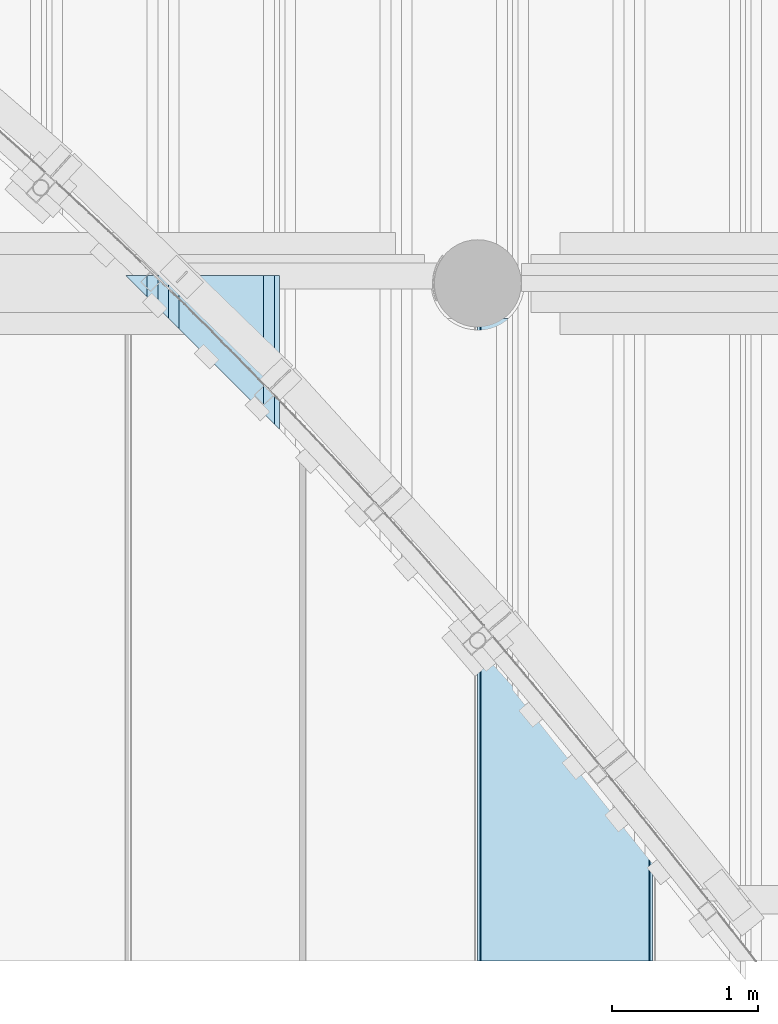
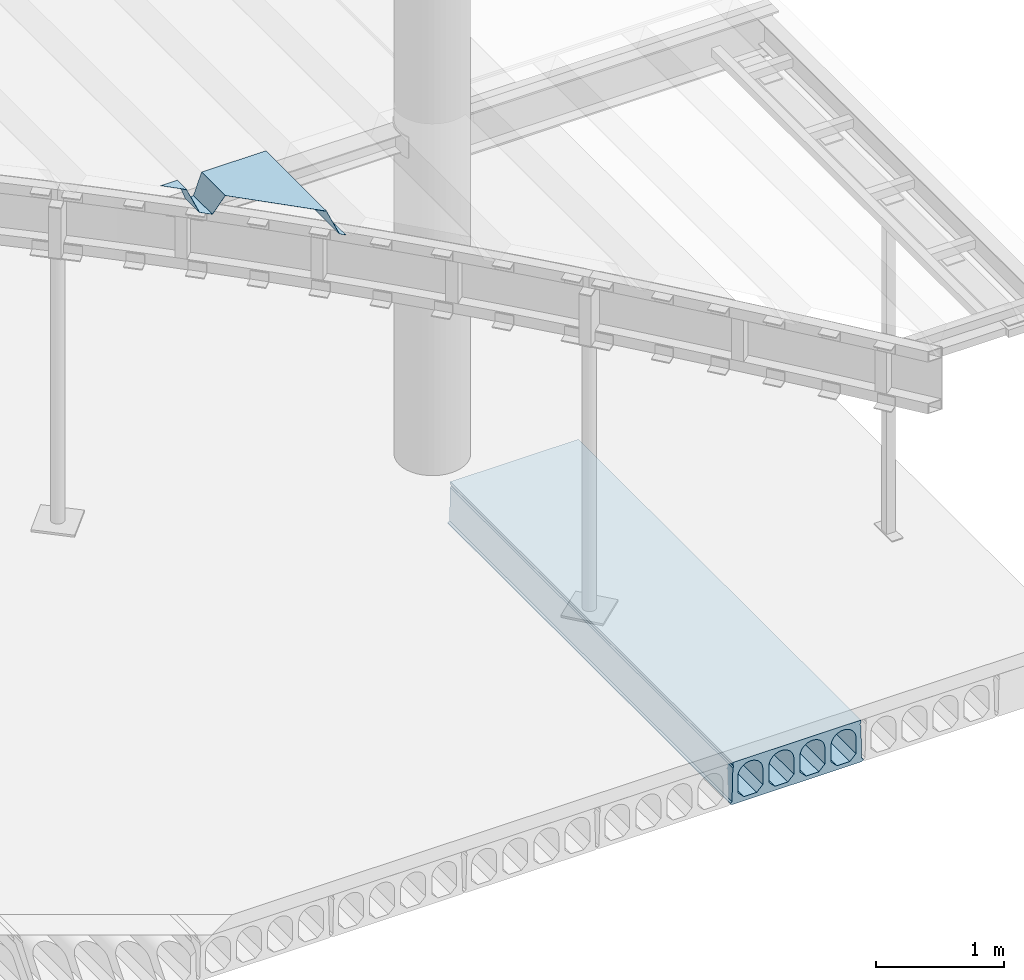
# One storey, part 51 of 98: 2 slabs.
"""IFC2X3 building model written with IfcOpenShell, lengths in millimetres."""

from ifc_helpers import new_model, entity, si_unit, converted_unit, derived_unit, direction, frame, origin_with_axes, place, context, subcontext, project, spatial, faceted_brep, material, type_object, element, save


model = new_model("IFC2X3")

# Units and contexts
model_context = context("Model", 3, precision=0.01, world=frame((0.0, 4.29681676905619e-09, 0.0)), true_north=direction((4.01073788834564e-13, 1.0)))
plan_context = context("Plan", 3, precision=0.01, world=frame((0.0, 4.29681676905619e-09, 0.0)), true_north=direction((4.01073788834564e-13, 1.0)))
body_context = subcontext(model_context, "Body", "Model", "MODEL_VIEW")
ifc_project = project(units=[converted_unit("PLANEANGLEUNIT", "DEGREE", entity("IfcPositiveLengthMeasure", 0.0174532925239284), si_unit("PLANEANGLEUNIT", "RADIAN"), dimensions=[0, 0, 0, 0, 0, 0, 0]), si_unit("AREAUNIT", "SQUARE_METRE"), si_unit("LENGTHUNIT", "METRE", prefix="MILLI"), si_unit("MASSUNIT", "GRAM", prefix="KILO"), si_unit("POWERUNIT", "WATT"), si_unit("PRESSUREUNIT", "PASCAL"), si_unit("FORCEUNIT", "NEWTON", prefix="KILO"), si_unit("ELECTRICCURRENTUNIT", "AMPERE"), si_unit("THERMODYNAMICTEMPERATUREUNIT", "DEGREE_CELSIUS"), si_unit("TIMEUNIT", "SECOND"), si_unit("VOLUMEUNIT", "CUBIC_METRE"), derived_unit("LINEARVELOCITYUNIT", [(si_unit("LENGTHUNIT", "METRE"), 1), (si_unit("TIMEUNIT", "SECOND"), -1)]), derived_unit("VOLUMETRICFLOWRATEUNIT", [(si_unit("VOLUMEUNIT", "CUBIC_METRE"), 1), (si_unit("TIMEUNIT", "SECOND"), -1)]), derived_unit("THERMALTRANSMITTANCEUNIT", [(si_unit("POWERUNIT", "WATT"), 1), (si_unit("THERMODYNAMICTEMPERATUREUNIT", "KELVIN"), -1), (si_unit("AREAUNIT", "SQUARE_METRE"), -1)])], contexts=[model_context, plan_context])

# Site, building, storey
site_placement = place(None, frame((0.0, -4.29681676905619e-09, 0.0), z_axis=(0.0, 0.0, 1.0), x_axis=(1.0, 0.0, 0.0)))
site = spatial("IfcSite", under=ifc_project, at=site_placement, Name="Gardermoen", CompositionType="ELEMENT")
building_placement = place(site_placement, frame((0.0, 4.29681676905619e-09, 0.0), z_axis=(0.0, 0.0, 1.0), x_axis=(1.0, 0.0, 0.0)))
building = spatial("IfcBuilding", under=site, at=building_placement, Name="TS", CompositionType="ELEMENT")
storey_placement = place(building_placement, origin_with_axes())
storey = spatial("IfcBuildingStorey", under=building, at=storey_placement, Name="D", CompositionType="ELEMENT", Elevation=0.0)

# Slabs
slab_type_1 = type_object("IfcSlabType", Name="HD400", PredefinedType="NOTDEFINED")
slab_1_placement = place(storey_placement, frame((529599.999766, 396739.995625, 203600.0), z_axis=(0.0, 0.0, 1.0), x_axis=(0.0, 1.0, 0.0)))
element("IfcSlab", 1, at=slab_1_placement, inside=storey, type_object=slab_type_1, Name="HULLDEKKE", ObjectType="HD400", PredefinedType="FLOOR", context=body_context, shape_type="Brep", body=[
    faceted_brep([(4105.68103395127, 600.0, -180.0), (4105.68103395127, 600.0, -190.0), (8520.0, 600.0, -190.0), (8520.0, 600.0, -180.0), (4105.68103395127, 585.0, -170.0), (8520.0, 585.0, -170.0), (4105.68103395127, 577.5, 145.0), (8520.0, 577.5, 145.0), (4105.68103395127, 570.0, 160.0), (8520.0, 570.0, 160.0), (4105.68103395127, 577.5, 175.0), (8520.0, 577.5, 175.0), (4105.68103395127, 577.5, 200.0), (8520.0, 577.5, 200.0), (4105.68103395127, -577.5, 200.0), (8520.0, -577.5, 200.0), (4105.68103395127, -577.5, 175.0), (8520.0, -577.5, 175.0), (4105.68103395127, -570.0, 160.0), (8520.0, -570.0, 160.0), (4105.68103395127, -577.5, 145.0), (8520.0, -577.5, 145.0), (4105.68103395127, -585.0, -170.0), (8520.0, -585.0, -170.0), (4105.68103395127, -600.0, -180.0), (8520.0, -600.0, -180.0), (4105.68103395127, -600.0, -190.0), (8520.0, -600.0, -190.0), (4105.68103395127, -583.380004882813, -200.0), (8520.0, -583.380004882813, -200.0), (4105.68103395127, 583.380004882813, -200.0), (8520.0, 583.380004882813, -200.0), (4105.68103395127, -477.5, -160.0), (4105.68103395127, -362.5, -160.0), (8520.0, -362.5, -160.0), (8520.0, -477.5, -160.0), (4105.68103395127, -532.5, -105.0), (8520.0, -532.5, -105.0), (4105.68103395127, -532.5, 47.5), (8520.0, -532.5, 47.5), (4105.68103395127, -532.115755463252, 56.7901763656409), (8520.0, -532.115755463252, 56.7901763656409), (4105.68103395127, -530.965646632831, 66.0168914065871), (8520.0, -530.965646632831, 66.0168914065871), (4105.68103395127, -529.057529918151, 75.1171173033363), (8520.0, -529.057529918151, 75.1171173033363), (4105.68103395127, -526.404439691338, 84.028690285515), (8520.0, -526.404439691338, 84.028690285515), (4105.68103395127, -523.024499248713, 92.6907352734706), (8520.0, -523.024499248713, 92.6907352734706), (4105.68103395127, -518.940797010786, 101.044081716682), (8520.0, -518.940797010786, 101.044081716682), (4105.68103395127, -514.181228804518, 109.031667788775), (8520.0, -514.181228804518, 109.031667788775), (4105.68103395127, -508.778307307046, 116.598930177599), (8520.0, -508.778307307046, 116.598930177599), (4105.68103395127, -502.768939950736, 123.694176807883), (8520.0, -502.768939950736, 123.694176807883), (4105.68103395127, -496.194176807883, 130.268939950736), (8520.0, -496.194176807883, 130.268939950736), (4105.68103395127, -489.098930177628, 136.278307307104), (8520.0, -489.098930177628, 136.278307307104), (4105.68103395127, -481.531667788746, 141.681228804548), (8520.0, -481.531667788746, 141.681228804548), (4105.68103395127, -473.544081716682, 146.440797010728), (8520.0, -473.544081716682, 146.440797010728), (4105.68103395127, -465.190735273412, 150.524499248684), (8520.0, -465.190735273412, 150.524499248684), (4105.68103395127, -456.528690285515, 153.904439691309), (8520.0, -456.528690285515, 153.904439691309), (4105.68103395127, -447.617117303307, 156.55752991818), (8520.0, -447.617117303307, 156.55752991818), (4105.68103395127, -438.516891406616, 158.465646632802), (8520.0, -438.516891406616, 158.465646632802), (4105.68103395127, -429.290176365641, 159.615755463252), (8520.0, -429.290176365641, 159.615755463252), (4105.68103395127, -420.0, 160.0), (8520.0, -420.0, 160.0), (4105.68103395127, -410.709823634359, 159.615755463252), (8520.0, -410.709823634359, 159.615755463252), (4105.68103395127, -401.483108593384, 158.465646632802), (8520.0, -401.483108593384, 158.465646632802), (4105.68103395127, -392.382882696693, 156.55752991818), (8520.0, -392.382882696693, 156.55752991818), (4105.68103395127, -383.471309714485, 153.904439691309), (8520.0, -383.471309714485, 153.904439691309), (4105.68103395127, -374.809264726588, 150.524499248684), (8520.0, -374.809264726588, 150.524499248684), (4105.68103395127, -366.455918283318, 146.440797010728), (8520.0, -366.455918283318, 146.440797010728), (4105.68103395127, -358.468332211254, 141.681228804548), (8520.0, -358.468332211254, 141.681228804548), (4105.68103395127, -350.901069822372, 136.278307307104), (8520.0, -350.901069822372, 136.278307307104), (4105.68103395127, -343.805823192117, 130.268939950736), (8520.0, -343.805823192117, 130.268939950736), (4105.68103395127, -337.231060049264, 123.694176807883), (8520.0, -337.231060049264, 123.694176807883), (4105.68103395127, -331.221692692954, 116.598930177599), (8520.0, -331.221692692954, 116.598930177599), (4105.68103395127, -325.818771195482, 109.031667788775), (8520.0, -325.818771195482, 109.031667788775), (4105.68103395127, -321.059202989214, 101.044081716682), (8520.0, -321.059202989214, 101.044081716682), (4105.68103395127, -316.975500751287, 92.6907352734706), (8520.0, -316.975500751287, 92.6907352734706), (4105.68103395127, -313.595560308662, 84.028690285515), (8520.0, -313.595560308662, 84.028690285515), (4105.68103395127, -310.942470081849, 75.1171173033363), (8520.0, -310.942470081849, 75.1171173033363), (4105.68103395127, -309.034353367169, 66.0168914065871), (8520.0, -309.034353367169, 66.0168914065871), (4105.68103395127, -307.884244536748, 56.7901763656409), (8520.0, -307.884244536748, 56.7901763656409), (4105.68103395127, -307.5, 47.5), (8520.0, -307.5, 47.5), (4105.68103395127, -307.5, -105.0), (8520.0, -307.5, -105.0), (4105.68103395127, -197.5, -160.0), (4105.68103395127, -82.5, -160.0), (8520.0, -82.5, -160.0), (8520.0, -197.5, -160.0), (4105.68103395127, -252.5, -105.0), (8520.0, -252.5, -105.0), (4105.68103395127, -252.5, 47.5), (8520.0, -252.5, 47.5), (4105.68103395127, -252.115755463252, 56.7901763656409), (8520.0, -252.115755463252, 56.7901763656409), (4105.68103395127, -250.965646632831, 66.0168914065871), (8520.0, -250.965646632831, 66.0168914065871), (4105.68103395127, -249.057529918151, 75.1171173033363), (8520.0, -249.057529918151, 75.1171173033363), (4105.68103395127, -246.404439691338, 84.028690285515), (8520.0, -246.404439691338, 84.028690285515), (4105.68103395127, -243.024499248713, 92.6907352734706), (8520.0, -243.024499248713, 92.6907352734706), (4105.68103395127, -238.940797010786, 101.044081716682), (8520.0, -238.940797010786, 101.044081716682), (4105.68103395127, -234.181228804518, 109.031667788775), (8520.0, -234.181228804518, 109.031667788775), (4105.68103395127, -228.778307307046, 116.598930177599), (8520.0, -228.778307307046, 116.598930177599), (4105.68103395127, -222.768939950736, 123.694176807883), (8520.0, -222.768939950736, 123.694176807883), (4105.68103395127, -216.194176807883, 130.268939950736), (8520.0, -216.194176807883, 130.268939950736), (4105.68103395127, -209.098930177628, 136.278307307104), (8520.0, -209.098930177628, 136.278307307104), (4105.68103395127, -201.531667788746, 141.681228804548), (8520.0, -201.531667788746, 141.681228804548), (4105.68103395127, -193.544081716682, 146.440797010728), (8520.0, -193.544081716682, 146.440797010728), (4105.68103395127, -185.190735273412, 150.524499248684), (8520.0, -185.190735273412, 150.524499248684), (4105.68103395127, -176.528690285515, 153.904439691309), (8520.0, -176.528690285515, 153.904439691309), (4105.68103395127, -167.617117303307, 156.55752991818), (8520.0, -167.617117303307, 156.55752991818), (4105.68103395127, -158.516891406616, 158.465646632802), (8520.0, -158.516891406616, 158.465646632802), (4105.68103395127, -149.290176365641, 159.615755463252), (8520.0, -149.290176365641, 159.615755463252), (4105.68103395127, -140.0, 160.0), (8520.0, -140.0, 160.0), (4105.68103395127, -130.709823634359, 159.615755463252), (8520.0, -130.709823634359, 159.615755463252), (4105.68103395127, -121.483108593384, 158.465646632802), (8520.0, -121.483108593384, 158.465646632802), (4105.68103395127, -112.382882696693, 156.55752991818), (8520.0, -112.382882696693, 156.55752991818), (4105.68103395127, -103.471309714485, 153.904439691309), (8520.0, -103.471309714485, 153.904439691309), (4105.68103395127, -94.8092647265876, 150.524499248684), (8520.0, -94.8092647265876, 150.524499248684), (4105.68103395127, -86.4559182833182, 146.440797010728), (8520.0, -86.4559182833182, 146.440797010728), (4105.68103395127, -78.4683322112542, 141.681228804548), (8520.0, -78.4683322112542, 141.681228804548), (4105.68103395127, -70.9010698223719, 136.278307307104), (8520.0, -70.9010698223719, 136.278307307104), (4105.68103395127, -63.8058231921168, 130.268939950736), (8520.0, -63.8058231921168, 130.268939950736), (4105.68103395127, -57.2310600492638, 123.694176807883), (8520.0, -57.2310600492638, 123.694176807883), (4105.68103395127, -51.2216926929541, 116.598930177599), (8520.0, -51.2216926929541, 116.598930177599), (4105.68103395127, -45.8187711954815, 109.031667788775), (8520.0, -45.8187711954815, 109.031667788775), (4105.68103395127, -41.0592029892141, 101.044081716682), (8520.0, -41.0592029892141, 101.044081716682), (4105.68103395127, -36.9755007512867, 92.6907352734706), (8520.0, -36.9755007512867, 92.6907352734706), (4105.68103395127, -33.5955603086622, 84.028690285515), (8520.0, -33.5955603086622, 84.028690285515), (4105.68103395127, -30.942470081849, 75.1171173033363), (8520.0, -30.942470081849, 75.1171173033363), (4105.68103395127, -29.0343533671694, 66.0168914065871), (8520.0, -29.0343533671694, 66.0168914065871), (4105.68103395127, -27.8842445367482, 56.7901763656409), (8520.0, -27.8842445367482, 56.7901763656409), (4105.68103395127, -27.5, 47.5), (8520.0, -27.5, 47.5), (4105.68103395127, -27.5, -105.0), (8520.0, -27.5, -105.0), (4105.68103395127, 82.5, -160.0), (4105.68103395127, 197.5, -160.0), (8520.0, 197.5, -160.0), (8520.0, 82.5, -160.0), (4105.68103395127, 27.5, -105.0), (8520.0, 27.5, -105.0), (4105.68103395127, 27.5, 47.5), (8520.0, 27.5, 47.5), (4105.68103395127, 27.8842445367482, 56.7901763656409), (8520.0, 27.8842445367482, 56.7901763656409), (4105.68103395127, 29.0343533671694, 66.0168914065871), (8520.0, 29.0343533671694, 66.0168914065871), (4105.68103395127, 30.942470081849, 75.1171173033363), (8520.0, 30.942470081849, 75.1171173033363), (4105.68103395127, 33.5955603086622, 84.028690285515), (8520.0, 33.5955603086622, 84.028690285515), (4105.68103395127, 36.9755007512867, 92.6907352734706), (8520.0, 36.9755007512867, 92.6907352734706), (4105.68103395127, 41.0592029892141, 101.044081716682), (8520.0, 41.0592029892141, 101.044081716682), (4105.68103395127, 45.8187711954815, 109.031667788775), (8520.0, 45.8187711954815, 109.031667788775), (4105.68103395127, 51.2216926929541, 116.598930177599), (8520.0, 51.2216926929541, 116.598930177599), (4105.68103395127, 57.2310600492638, 123.694176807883), (8520.0, 57.2310600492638, 123.694176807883), (4105.68103395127, 63.8058231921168, 130.268939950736), (8520.0, 63.8058231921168, 130.268939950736), (4105.68103395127, 70.9010698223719, 136.278307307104), (8520.0, 70.9010698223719, 136.278307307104), (4105.68103395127, 78.4683322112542, 141.681228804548), (8520.0, 78.4683322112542, 141.681228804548), (4105.68103395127, 86.4559182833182, 146.440797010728), (8520.0, 86.4559182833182, 146.440797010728), (4105.68103395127, 94.8092647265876, 150.524499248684), (8520.0, 94.8092647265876, 150.524499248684), (4105.68103395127, 103.471309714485, 153.904439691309), (8520.0, 103.471309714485, 153.904439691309), (4105.68103395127, 112.382882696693, 156.55752991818), (8520.0, 112.382882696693, 156.55752991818), (4105.68103395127, 121.483108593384, 158.465646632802), (8520.0, 121.483108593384, 158.465646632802), (4105.68103395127, 130.709823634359, 159.615755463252), (8520.0, 130.709823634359, 159.615755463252), (4105.68103395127, 140.0, 160.0), (8520.0, 140.0, 160.0), (4105.68103395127, 149.290176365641, 159.615755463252), (8520.0, 149.290176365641, 159.615755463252), (4105.68103395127, 158.516891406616, 158.465646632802), (8520.0, 158.516891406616, 158.465646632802), (4105.68103395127, 167.617117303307, 156.55752991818), (8520.0, 167.617117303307, 156.55752991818), (4105.68103395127, 176.528690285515, 153.904439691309), (8520.0, 176.528690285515, 153.904439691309), (4105.68103395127, 185.190735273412, 150.524499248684), (8520.0, 185.190735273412, 150.524499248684), (4105.68103395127, 193.544081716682, 146.440797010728), (8520.0, 193.544081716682, 146.440797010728), (4105.68103395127, 201.531667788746, 141.681228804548), (8520.0, 201.531667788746, 141.681228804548), (4105.68103395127, 209.098930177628, 136.278307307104), (8520.0, 209.098930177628, 136.278307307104), (4105.68103395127, 216.194176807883, 130.268939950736), (8520.0, 216.194176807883, 130.268939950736), (4105.68103395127, 222.768939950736, 123.694176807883), (8520.0, 222.768939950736, 123.694176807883), (4105.68103395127, 228.778307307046, 116.598930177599), (8520.0, 228.778307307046, 116.598930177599), (4105.68103395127, 234.181228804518, 109.031667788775), (8520.0, 234.181228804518, 109.031667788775), (4105.68103395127, 238.940797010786, 101.044081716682), (8520.0, 238.940797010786, 101.044081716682), (4105.68103395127, 243.024499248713, 92.6907352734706), (8520.0, 243.024499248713, 92.6907352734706), (4105.68103395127, 246.404439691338, 84.028690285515), (8520.0, 246.404439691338, 84.028690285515), (4105.68103395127, 249.057529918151, 75.1171173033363), (8520.0, 249.057529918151, 75.1171173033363), (4105.68103395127, 250.965646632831, 66.0168914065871), (8520.0, 250.965646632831, 66.0168914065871), (4105.68103395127, 252.115755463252, 56.7901763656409), (8520.0, 252.115755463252, 56.7901763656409), (4105.68103395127, 252.5, 47.5), (8520.0, 252.5, 47.5), (4105.68103395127, 252.5, -105.0), (8520.0, 252.5, -105.0), (4105.68103395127, 362.5, -160.0), (4105.68103395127, 477.5, -160.0), (8520.0, 477.5, -160.0), (8520.0, 362.5, -160.0), (4105.68103395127, 307.5, -105.0), (8520.0, 307.5, -105.0), (4105.68103395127, 307.5, 47.5), (8520.0, 307.5, 47.5), (4105.68103395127, 307.884244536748, 56.7901763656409), (8520.0, 307.884244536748, 56.7901763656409), (4105.68103395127, 309.034353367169, 66.0168914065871), (8520.0, 309.034353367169, 66.0168914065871), (4105.68103395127, 310.942470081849, 75.1171173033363), (8520.0, 310.942470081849, 75.1171173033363), (4105.68103395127, 313.595560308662, 84.028690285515), (8520.0, 313.595560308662, 84.028690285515), (4105.68103395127, 316.975500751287, 92.6907352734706), (8520.0, 316.975500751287, 92.6907352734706), (4105.68103395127, 321.059202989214, 101.044081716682), (8520.0, 321.059202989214, 101.044081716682), (4105.68103395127, 325.818771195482, 109.031667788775), (8520.0, 325.818771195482, 109.031667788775), (4105.68103395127, 331.221692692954, 116.598930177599), (8520.0, 331.221692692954, 116.598930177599), (4105.68103395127, 337.231060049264, 123.694176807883), (8520.0, 337.231060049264, 123.694176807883), (4105.68103395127, 343.805823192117, 130.268939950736), (8520.0, 343.805823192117, 130.268939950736), (4105.68103395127, 350.901069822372, 136.278307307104), (8520.0, 350.901069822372, 136.278307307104), (4105.68103395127, 358.468332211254, 141.681228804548), (8520.0, 358.468332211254, 141.681228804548), (4105.68103395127, 366.455918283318, 146.440797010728), (8520.0, 366.455918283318, 146.440797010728), (4105.68103395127, 374.809264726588, 150.524499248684), (8520.0, 374.809264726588, 150.524499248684), (4105.68103395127, 383.471309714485, 153.904439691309), (8520.0, 383.471309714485, 153.904439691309), (4105.68103395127, 392.382882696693, 156.55752991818), (8520.0, 392.382882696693, 156.55752991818), (4105.68103395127, 401.483108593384, 158.465646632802), (8520.0, 401.483108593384, 158.465646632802), (4105.68103395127, 410.709823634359, 159.615755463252), (8520.0, 410.709823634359, 159.615755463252), (4105.68103395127, 420.0, 160.0), (8520.0, 420.0, 160.0), (4105.68103395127, 429.290176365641, 159.615755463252), (8520.0, 429.290176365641, 159.615755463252), (4105.68103395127, 438.516891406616, 158.465646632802), (8520.0, 438.516891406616, 158.465646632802), (4105.68103395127, 447.617117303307, 156.55752991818), (8520.0, 447.617117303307, 156.55752991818), (4105.68103395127, 456.528690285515, 153.904439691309), (8520.0, 456.528690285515, 153.904439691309), (4105.68103395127, 465.190735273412, 150.524499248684), (8520.0, 465.190735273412, 150.524499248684), (4105.68103395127, 473.544081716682, 146.440797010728), (8520.0, 473.544081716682, 146.440797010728), (4105.68103395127, 481.531667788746, 141.681228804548), (8520.0, 481.531667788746, 141.681228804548), (4105.68103395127, 489.098930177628, 136.278307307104), (8520.0, 489.098930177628, 136.278307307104), (4105.68103395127, 496.194176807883, 130.268939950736), (8520.0, 496.194176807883, 130.268939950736), (4105.68103395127, 502.768939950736, 123.694176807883), (8520.0, 502.768939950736, 123.694176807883), (4105.68103395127, 508.778307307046, 116.598930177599), (8520.0, 508.778307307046, 116.598930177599), (4105.68103395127, 514.181228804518, 109.031667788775), (8520.0, 514.181228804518, 109.031667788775), (4105.68103395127, 518.940797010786, 101.044081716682), (8520.0, 518.940797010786, 101.044081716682), (4105.68103395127, 523.024499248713, 92.6907352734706), (8520.0, 523.024499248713, 92.6907352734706), (4105.68103395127, 526.404439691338, 84.028690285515), (8520.0, 526.404439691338, 84.028690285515), (4105.68103395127, 529.057529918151, 75.1171173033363), (8520.0, 529.057529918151, 75.1171173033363), (4105.68103395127, 530.965646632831, 66.0168914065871), (8520.0, 530.965646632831, 66.0168914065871), (4105.68103395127, 532.115755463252, 56.7901763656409), (8520.0, 532.115755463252, 56.7901763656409), (4105.68103395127, 532.5, 47.5), (8520.0, 532.5, 47.5), (4105.68103395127, 532.5, -105.0), (8520.0, 532.5, -105.0)], [[[0, 1, 2, 3]], [[4, 0, 3, 5]], [[6, 4, 5, 7]], [[8, 6, 7, 9]], [[10, 8, 9, 11]], [[12, 10, 11, 13]], [[14, 12, 13, 15]], [[16, 14, 15, 17]], [[18, 16, 17, 19]], [[20, 18, 19, 21]], [[22, 20, 21, 23]], [[24, 22, 23, 25]], [[26, 24, 25, 27]], [[28, 26, 27, 29]], [[30, 28, 29, 31]], [[1, 30, 31, 2]], [[32, 33, 34, 35]], [[36, 32, 35, 37]], [[38, 36, 37, 39]], [[40, 38, 39, 41]], [[42, 40, 41, 43]], [[44, 42, 43, 45]], [[46, 44, 45, 47]], [[48, 46, 47, 49]], [[50, 48, 49, 51]], [[52, 50, 51, 53]], [[54, 52, 53, 55]], [[56, 54, 55, 57]], [[58, 56, 57, 59]], [[60, 58, 59, 61]], [[62, 60, 61, 63]], [[64, 62, 63, 65]], [[66, 64, 65, 67]], [[68, 66, 67, 69]], [[70, 68, 69, 71]], [[72, 70, 71, 73]], [[74, 72, 73, 75]], [[76, 74, 75, 77]], [[78, 76, 77, 79]], [[80, 78, 79, 81]], [[82, 80, 81, 83]], [[84, 82, 83, 85]], [[86, 84, 85, 87]], [[88, 86, 87, 89]], [[90, 88, 89, 91]], [[92, 90, 91, 93]], [[94, 92, 93, 95]], [[96, 94, 95, 97]], [[98, 96, 97, 99]], [[100, 98, 99, 101]], [[102, 100, 101, 103]], [[104, 102, 103, 105]], [[106, 104, 105, 107]], [[108, 106, 107, 109]], [[110, 108, 109, 111]], [[112, 110, 111, 113]], [[114, 112, 113, 115]], [[116, 114, 115, 117]], [[33, 116, 117, 34]], [[118, 119, 120, 121]], [[122, 118, 121, 123]], [[124, 122, 123, 125]], [[126, 124, 125, 127]], [[128, 126, 127, 129]], [[130, 128, 129, 131]], [[132, 130, 131, 133]], [[134, 132, 133, 135]], [[136, 134, 135, 137]], [[138, 136, 137, 139]], [[140, 138, 139, 141]], [[142, 140, 141, 143]], [[144, 142, 143, 145]], [[146, 144, 145, 147]], [[148, 146, 147, 149]], [[150, 148, 149, 151]], [[152, 150, 151, 153]], [[154, 152, 153, 155]], [[156, 154, 155, 157]], [[158, 156, 157, 159]], [[160, 158, 159, 161]], [[162, 160, 161, 163]], [[164, 162, 163, 165]], [[166, 164, 165, 167]], [[168, 166, 167, 169]], [[170, 168, 169, 171]], [[172, 170, 171, 173]], [[174, 172, 173, 175]], [[176, 174, 175, 177]], [[178, 176, 177, 179]], [[180, 178, 179, 181]], [[182, 180, 181, 183]], [[184, 182, 183, 185]], [[186, 184, 185, 187]], [[188, 186, 187, 189]], [[190, 188, 189, 191]], [[192, 190, 191, 193]], [[194, 192, 193, 195]], [[196, 194, 195, 197]], [[198, 196, 197, 199]], [[200, 198, 199, 201]], [[202, 200, 201, 203]], [[119, 202, 203, 120]], [[204, 205, 206, 207]], [[208, 204, 207, 209]], [[210, 208, 209, 211]], [[212, 210, 211, 213]], [[214, 212, 213, 215]], [[216, 214, 215, 217]], [[218, 216, 217, 219]], [[220, 218, 219, 221]], [[222, 220, 221, 223]], [[224, 222, 223, 225]], [[226, 224, 225, 227]], [[228, 226, 227, 229]], [[230, 228, 229, 231]], [[232, 230, 231, 233]], [[234, 232, 233, 235]], [[236, 234, 235, 237]], [[238, 236, 237, 239]], [[240, 238, 239, 241]], [[242, 240, 241, 243]], [[244, 242, 243, 245]], [[246, 244, 245, 247]], [[248, 246, 247, 249]], [[250, 248, 249, 251]], [[252, 250, 251, 253]], [[254, 252, 253, 255]], [[256, 254, 255, 257]], [[258, 256, 257, 259]], [[260, 258, 259, 261]], [[262, 260, 261, 263]], [[264, 262, 263, 265]], [[266, 264, 265, 267]], [[268, 266, 267, 269]], [[270, 268, 269, 271]], [[272, 270, 271, 273]], [[274, 272, 273, 275]], [[276, 274, 275, 277]], [[278, 276, 277, 279]], [[280, 278, 279, 281]], [[282, 280, 281, 283]], [[284, 282, 283, 285]], [[286, 284, 285, 287]], [[288, 286, 287, 289]], [[205, 288, 289, 206]], [[290, 291, 292, 293]], [[294, 290, 293, 295]], [[296, 294, 295, 297]], [[298, 296, 297, 299]], [[300, 298, 299, 301]], [[302, 300, 301, 303]], [[304, 302, 303, 305]], [[306, 304, 305, 307]], [[308, 306, 307, 309]], [[310, 308, 309, 311]], [[312, 310, 311, 313]], [[314, 312, 313, 315]], [[316, 314, 315, 317]], [[318, 316, 317, 319]], [[320, 318, 319, 321]], [[322, 320, 321, 323]], [[324, 322, 323, 325]], [[326, 324, 325, 327]], [[328, 326, 327, 329]], [[330, 328, 329, 331]], [[332, 330, 331, 333]], [[334, 332, 333, 335]], [[336, 334, 335, 337]], [[338, 336, 337, 339]], [[340, 338, 339, 341]], [[342, 340, 341, 343]], [[344, 342, 343, 345]], [[346, 344, 345, 347]], [[348, 346, 347, 349]], [[350, 348, 349, 351]], [[352, 350, 351, 353]], [[354, 352, 353, 355]], [[356, 354, 355, 357]], [[358, 356, 357, 359]], [[360, 358, 359, 361]], [[362, 360, 361, 363]], [[364, 362, 363, 365]], [[366, 364, 365, 367]], [[368, 366, 367, 369]], [[370, 368, 369, 371]], [[372, 370, 371, 373]], [[374, 372, 373, 375]], [[291, 374, 375, 292]], [[3, 2, 31, 29, 27, 25, 23, 21, 19, 17, 15, 13, 11, 9, 7, 5], [293, 292, 375, 373, 371, 369, 367, 365, 363, 361, 359, 357, 355, 353, 351, 349, 347, 345, 343, 341, 339, 337, 335, 333, 331, 329, 327, 325, 323, 321, 319, 317, 315, 313, 311, 309, 307, 305, 303, 301, 299, 297, 295], [207, 206, 289, 287, 285, 283, 281, 279, 277, 275, 273, 271, 269, 267, 265, 263, 261, 259, 257, 255, 253, 251, 249, 247, 245, 243, 241, 239, 237, 235, 233, 231, 229, 227, 225, 223, 221, 219, 217, 215, 213, 211, 209], [121, 120, 203, 201, 199, 197, 195, 193, 191, 189, 187, 185, 183, 181, 179, 177, 175, 173, 171, 169, 167, 165, 163, 161, 159, 157, 155, 153, 151, 149, 147, 145, 143, 141, 139, 137, 135, 133, 131, 129, 127, 125, 123], [35, 34, 117, 115, 113, 111, 109, 107, 105, 103, 101, 99, 97, 95, 93, 91, 89, 87, 85, 83, 81, 79, 77, 75, 73, 71, 69, 67, 65, 63, 61, 59, 57, 55, 53, 51, 49, 47, 45, 43, 41, 39, 37]], [[4, 6, 8, 10, 12, 14, 16, 18, 20, 22, 24, 26, 28, 30, 1, 0], [36, 38, 40, 42, 44, 46, 48, 50, 52, 54, 56, 58, 60, 62, 64, 66, 68, 70, 72, 74, 76, 78, 80, 82, 84, 86, 88, 90, 92, 94, 96, 98, 100, 102, 104, 106, 108, 110, 112, 114, 116, 33, 32], [122, 124, 126, 128, 130, 132, 134, 136, 138, 140, 142, 144, 146, 148, 150, 152, 154, 156, 158, 160, 162, 164, 166, 168, 170, 172, 174, 176, 178, 180, 182, 184, 186, 188, 190, 192, 194, 196, 198, 200, 202, 119, 118], [208, 210, 212, 214, 216, 218, 220, 222, 224, 226, 228, 230, 232, 234, 236, 238, 240, 242, 244, 246, 248, 250, 252, 254, 256, 258, 260, 262, 264, 266, 268, 270, 272, 274, 276, 278, 280, 282, 284, 286, 288, 205, 204], [294, 296, 298, 300, 302, 304, 306, 308, 310, 312, 314, 316, 318, 320, 322, 324, 326, 328, 330, 332, 334, 336, 338, 340, 342, 344, 346, 348, 350, 352, 354, 356, 358, 360, 362, 364, 366, 368, 370, 372, 374, 291, 290]]], orient=[[False], [False], [False], [False], [False], [False], [False], [False], [False], [False], [False], [False], [False], [False], [False], [False], [False], [False], [False], [False], [False], [False], [False], [False], [False], [False], [False], [False], [False], [False], [False], [False], [False], [False], [False], [False], [False], [False], [False], [False], [False], [False], [False], [False], [False], [False], [False], [False], [False], [False], [False], [False], [False], [False], [False], [False], [False], [False], [False], [False], [False], [False], [False], [False], [False], [False], [False], [False], [False], [False], [False], [False], [False], [False], [False], [False], [False], [False], [False], [False], [False], [False], [False], [False], [False], [False], [False], [False], [False], [False], [False], [False], [False], [False], [False], [False], [False], [False], [False], [False], [False], [False], [False], [False], [False], [False], [False], [False], [False], [False], [False], [False], [False], [False], [False], [False], [False], [False], [False], [False], [False], [False], [False], [False], [False], [False], [False], [False], [False], [False], [False], [False], [False], [False], [False], [False], [False], [False], [False], [False], [False], [False], [False], [False], [False], [False], [False], [False], [False], [False], [False], [False], [False], [False], [False], [False], [False], [False], [False], [False], [False], [False], [False], [False], [False], [False], [False], [False], [False], [False], [False], [False], [False], [False], [False], [False], [False], [False], [False], [False], [False], [False], [False], [False], [False], [False], [False], [False], [False, False, False, False, False], [False, False, False, False, False]]),
])
ifc_material = material(Name="STEEL/S355")
slab_type_2 = type_object("IfcSlabType", Name="PLANNJA200", PredefinedType="NOTDEFINED")
slab_2_placement = place(storey_placement, frame((526840.35, 404471.26, 207199.0), z_axis=(0.0, 0.0, 1.0), x_axis=(0.0, 1.0, 0.0)))
element("IfcSlab", 2, at=slab_2_placement, inside=storey, type_object=slab_type_2, material=ifc_material, Name="STÅLTAK", ObjectType="PLANNJA200", PredefinedType="FLOOR", context=body_context, shape_type="Brep", body=[
    faceted_brep([(1083.71999999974, 110.0, 99.5), (1083.71999999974, 259.717933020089, 99.5), (934.002066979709, 110.0, 99.5), (1083.71999999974, 36.8035354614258, -98.5), (860.805602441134, 36.8035354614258, -98.5), (1083.71999999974, -36.8035354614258, -98.5), (787.198531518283, -36.8035354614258, -98.5), (1083.71999999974, -110.0, 99.5), (714.002066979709, -110.0, 99.5), (1083.71999999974, -690.0, 99.5), (134.002066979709, -690.0, 99.5), (1083.71999999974, -763.196472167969, -98.5), (60.8055948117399, -763.196472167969, -98.5), (1083.71999999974, -800.0, -98.5), (24.0020669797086, -800.0, -98.5), (1083.71999999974, -800.0, -99.5), (24.0020669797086, -800.0, -99.5), (1083.71999999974, -762.5, -99.5), (61.5020669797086, -762.5, -99.5), (1083.71999999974, -689.303527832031, 98.5), (134.698539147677, -689.303527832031, 98.5), (1083.71999999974, -110.696464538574, 98.5), (713.305602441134, -110.696464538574, 98.5), (1083.71999999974, -37.5, -99.5), (786.502066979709, -37.5, -99.5), (1083.71999999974, 37.5, -99.5), (861.502066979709, 37.5, -99.5), (1083.71999999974, 110.696464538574, 98.5), (934.698531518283, 110.696464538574, 98.5), (1083.71999999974, 259.717933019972, 98.5)], [[[0, 1, 2]], [[3, 0, 2, 4]], [[5, 3, 4, 6]], [[7, 5, 6, 8]], [[9, 7, 8, 10]], [[11, 9, 10, 12]], [[13, 11, 12, 14]], [[15, 13, 14, 16]], [[17, 15, 16, 18]], [[19, 17, 18, 20]], [[21, 19, 20, 22]], [[23, 21, 22, 24]], [[25, 23, 24, 26]], [[27, 25, 26, 28]], [[27, 28, 29]], [[0, 3, 5, 7, 9, 11, 13, 15, 17, 19, 21, 23, 25, 27, 29, 1]], [[28, 26, 24, 22, 20, 18, 16, 14, 12, 10, 8, 6, 4, 2, 1, 29]]]),
])

save(model, "model.ifc")
